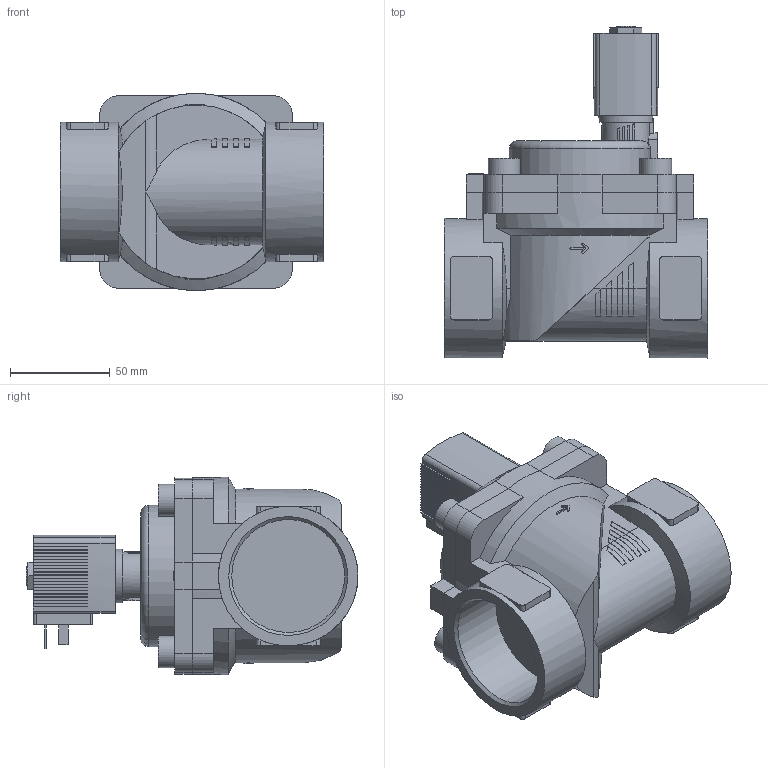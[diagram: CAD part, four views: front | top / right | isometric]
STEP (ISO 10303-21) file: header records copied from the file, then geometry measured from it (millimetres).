
FILE_DESCRIPTION(/* description */ ('STEP AP214'),/* implementation_level */ '2;1');
FILE_NAME(/* name */ '6281-262316-2_2-Way_Solenoid_Valve__Servo-assisted__General_Purpose',/* time_stamp */ '2024-08-30T21:19:23+02:00',/* author */ ('License CC BY-ND 4.0'),/* organization */ ('CADENAS'),/* preprocessor_version */ 'ST-DEVELOPER v19.3',/* originating_system */ 'PARTsolutions',/* authorisation */ ' ');
FILE_SCHEMA (('AUTOMOTIVE_DESIGN {1 0 10303 214 3 1 1}'));
Length unit declared in the file: millimetre
Products named in the file (4): 6281-262316-2/2-Way Solenoid Valve, Servo-assisted, General Purpose; 5281ev400MS2/2-Wege-Magnetventil mit Servomembran-Deckel 99 ; 6213-40G2MS-Gehaeuse-; AC10ex-5OO-Plan-Coil
Assembly tree (3 placements, depth 2):
  6281-262316-2/2-Way Solenoid Valve, Servo-assisted, General Purpose
    5281ev400MS2/2-Wege-Magnetventil mit Servomembran-Deckel 99 
    6213-40G2MS-Gehaeuse-
    AC10ex-5OO-Plan-Coil
Bounding box: 132 x 166.5 x 99 mm (x, y, z)
Volume: 729372.6 mm3; surface area: 103435.5 mm2
Topology: 3 solids, 3 shells, 544 faces, 1527 edges, 1013 vertices
Faces by surface type: plane 436, cylinder 94, cone 13, torus 1
Full cylindrical faces by diameter (mm): 2.013 x1, 9.74 x1, 16 x4, 27 x1, 56.656 x2, 70 x2
Entity records: 20098 total; most frequent: CARTESIAN_POINT 3323, ORIENTED_EDGE 3008, DIRECTION 2842, EDGE_CURVE 1504, LINE 1126, VECTOR 1126, VERTEX_POINT 1005, AXIS2_PLACEMENT_3D 858
